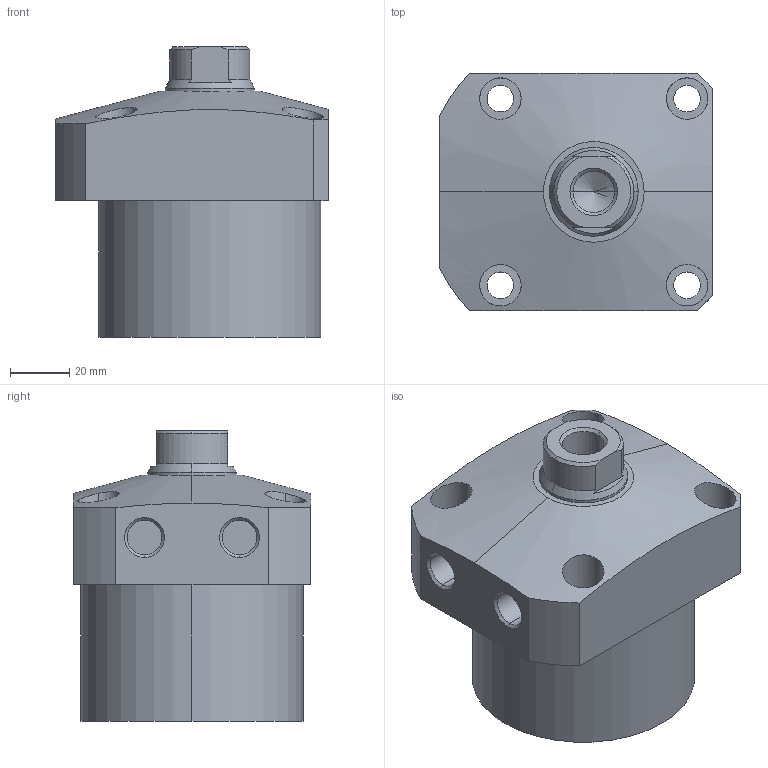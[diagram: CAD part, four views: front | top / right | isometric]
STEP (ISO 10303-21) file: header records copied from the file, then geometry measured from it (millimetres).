
FILE_DESCRIPTION (( 'STEP AP203' ), '1' );
FILE_NAME ('CLL-075CA-030.STEP', '2019-12-20T05:43:05', ( '' ), ( '' ), 'SwSTEP 2.0', 'SolidWorks 2015', '' );
FILE_SCHEMA (( 'CONFIG_CONTROL_DESIGN' ));
Length unit declared in the file: millimetre
Products named in the file (1): CLL-075CA-030
Bounding box: 92 x 80 x 98 mm (x, y, z)
Volume: 425920 mm3; surface area: 42114.3 mm2
Topology: 1 solids, 1 shells, 72 faces, 169 edges, 108 vertices
Faces by surface type: cylinder 35, plane 22, cone 15
Entity records: 2557 total; most frequent: CARTESIAN_POINT 792, DIRECTION 366, ORIENTED_EDGE 334, EDGE_CURVE 167, AXIS2_PLACEMENT_3D 150, VERTEX_POINT 108, EDGE_LOOP 91, CIRCLE 77
